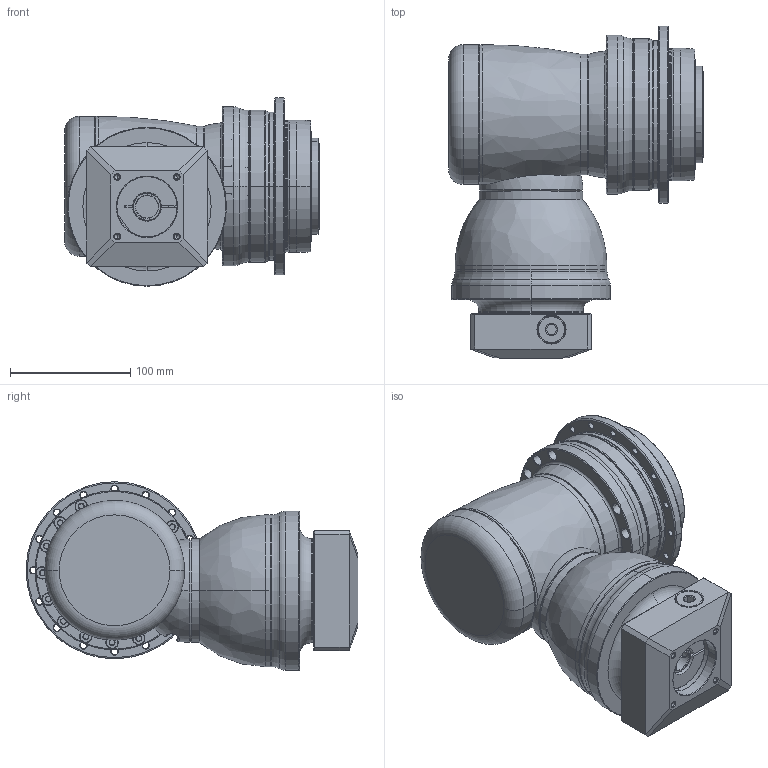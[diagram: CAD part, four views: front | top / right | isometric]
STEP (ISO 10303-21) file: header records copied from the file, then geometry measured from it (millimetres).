
FILE_DESCRIPTION((''),'2;1');
FILE_NAME('AHK110_2ST_19-P0409410101_ASM','2016-09-23T',('d01943'),(''),'PRO/ENGINEER BY PARAMETRIC TECHNOLOGY CORPORATION, 2008410','PRO/ENGINEER BY PARAMETRIC TECHNOLOGY CORPORATION, 2008410','');
FILE_SCHEMA(('CONFIG_CONTROL_DESIGN'));
Length unit declared in the file: millimetre
Products named in the file (12): P1008400002; P1802400011; P0278400003; P0359400003; P1315400001; P1007400001; P1318400001; P0503400008; P0912400201; P0409410101; 21711416017; AHK110_2ST_19-P0409410101_ASM
Assembly tree (11 placements, depth 2):
  AHK110_2ST_19-P0409410101_ASM
    P1008400002
    P1802400011
    P0278400003
    P0359400003
    P1315400001
    P1007400001
    P1318400001
    P0503400008
    P0912400201
    P0409410101
    21711416017
Bounding box: 211.3 x 275.5 x 156.5 mm (x, y, z)
Volume: 2636993.3 mm3; surface area: 415009.5 mm2
Topology: 12 solids, 12 shells, 1029 faces, 2280 edges, 1321 vertices
Faces by surface type: cylinder 370, cone 346, plane 147, torus 124, bspline 40, sphere 2
Entity records: 34100 total; most frequent: CARTESIAN_POINT 10810, DIRECTION 5352, ORIENTED_EDGE 4420, AXIS2_PLACEMENT_3D 2283, EDGE_CURVE 2210, VERTEX_POINT 1321, CIRCLE 1271, EDGE_LOOP 1223
